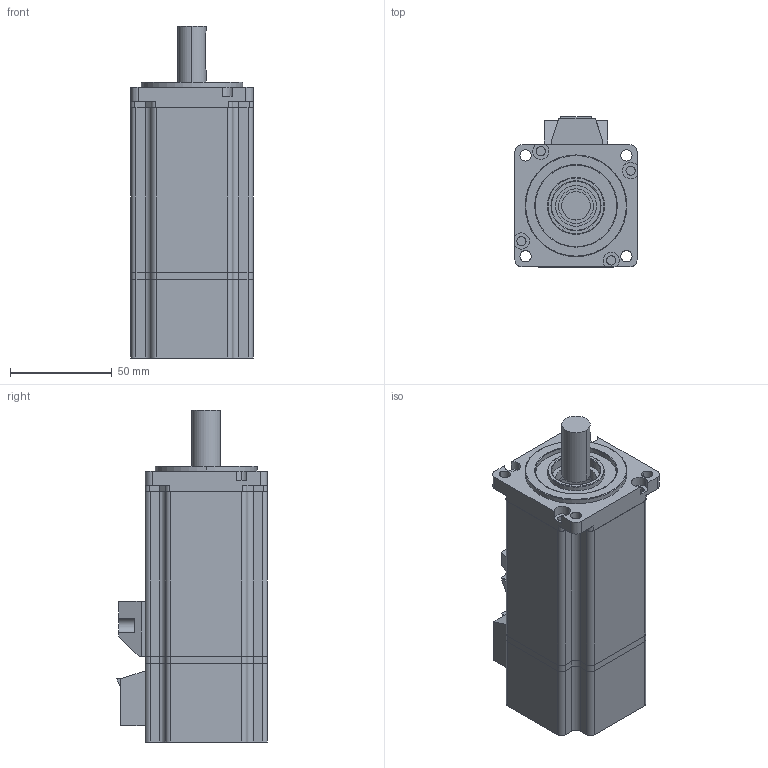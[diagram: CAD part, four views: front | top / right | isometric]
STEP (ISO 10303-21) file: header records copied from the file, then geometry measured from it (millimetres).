
FILE_DESCRIPTION (( 'STEP AP203' ), '1' );
FILE_NAME ('60-01330.STEP', '2020-03-08T12:33:27', ( '' ), ( '' ), 'SwSTEP 2.0', 'SolidWorks 2016', '' );
FILE_SCHEMA (( 'CONFIG_CONTROL_DESIGN' ));
Length unit declared in the file: millimetre
Products named in the file (8): 60粣; 60晤鎢ん; 萇儂裔啣_1; 60 1.3籟隅赽; 60-01330; 60綴裔; 60晤鎢ん裔啣; 60ヶ裔
Assembly tree (7 placements, depth 2):
  60-01330
    60 1.3籟隅赽
    60ヶ裔
    60綴裔
    60粣
    60晤鎢ん
    60晤鎢ん裔啣
    萇儂裔啣_1
Bounding box: 60 x 74 x 163 mm (x, y, z)
Volume: 244465.3 mm3; surface area: 79856.3 mm2
Topology: 7 solids, 7 shells, 279 faces, 728 edges, 480 vertices
Faces by surface type: cylinder 153, plane 114, torus 8, cone 2, bspline 2
Entity records: 9688 total; most frequent: DIRECTION 1618, CARTESIAN_POINT 1563, ORIENTED_EDGE 1456, EDGE_CURVE 728, AXIS2_PLACEMENT_3D 609, VERTEX_POINT 480, VECTOR 400, LINE 400
